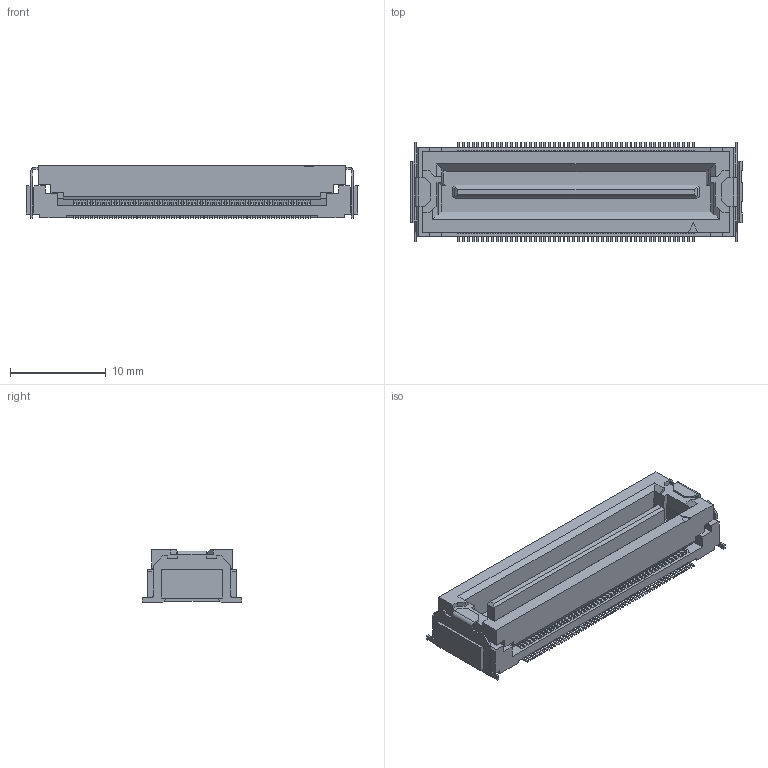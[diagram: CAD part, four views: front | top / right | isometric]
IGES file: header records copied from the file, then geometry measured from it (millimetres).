
Start section: Elysium IGES Interface
Global section: file name: 54HG:\柴崎\DT_webリニューアル\レセ\ボス無\DT00-100S-T.igs; native system: Creo Elements/Direct Modeling 19.0F  14-Feb-2017; preprocessor: Creo Element/Direct IGES_3D V2.2; author: Unknown; organization: Unknown; date: 20170808.194604; units: millimetre
Bounding box: 34.7 x 10.38 x 5.5 mm (x, y, z)
Volume: 1013.6 mm3; surface area: 2146.4 mm2
Topology: 1 solids, 1 shells, 2952 faces, 8123 edges, 5274 vertices
Faces by surface type: bspline 2952
